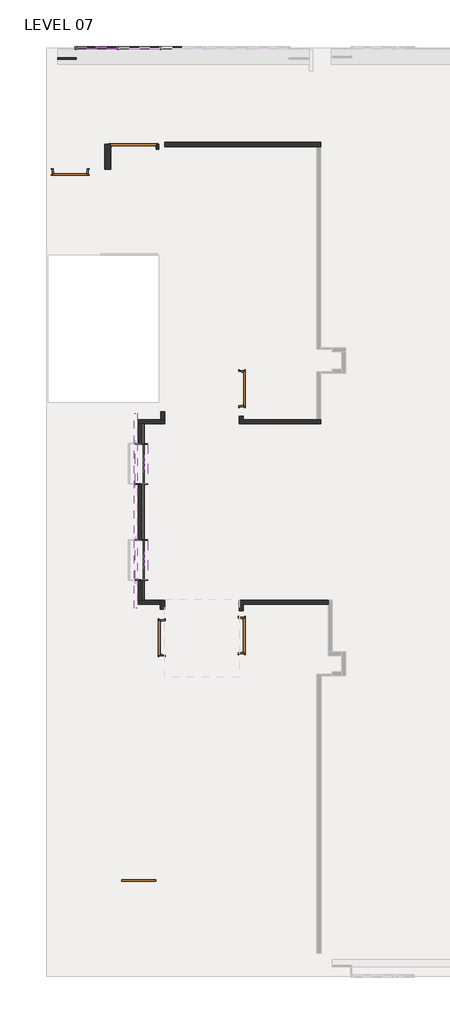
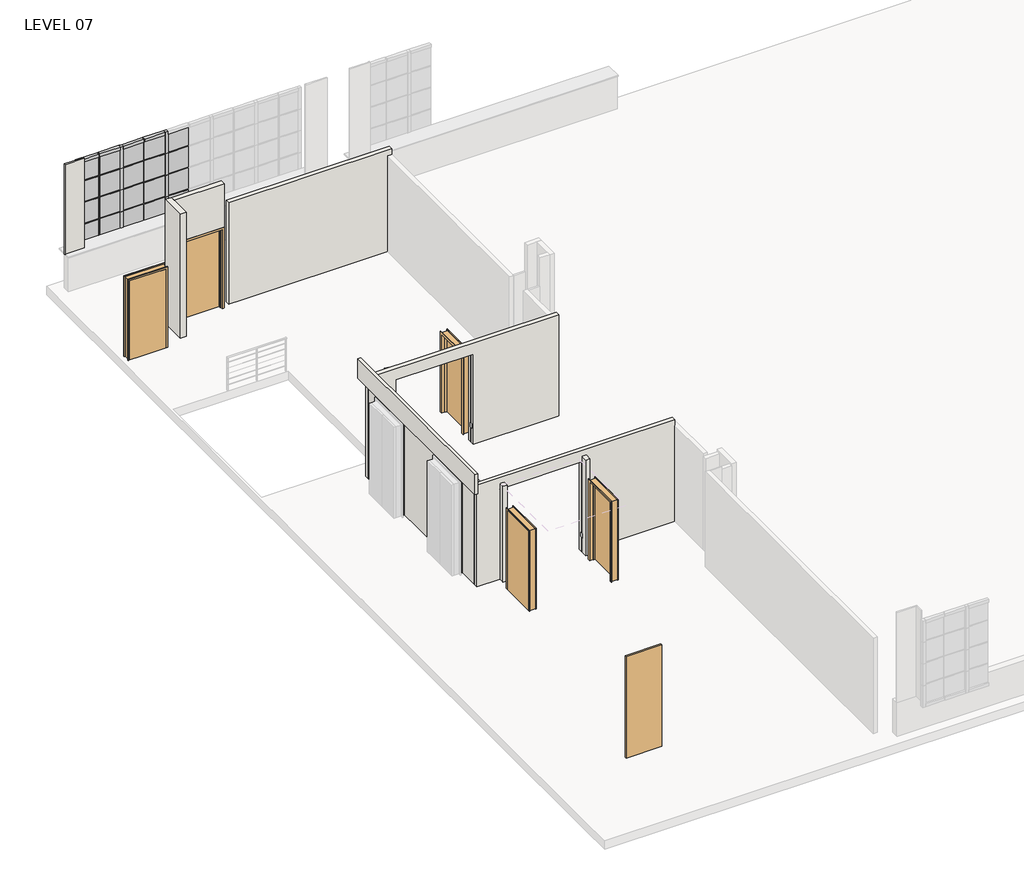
# One storey, part 1 of 15: 45 members, 28 plates, 18 walls, 6 doors.
"""IFC4 building model written with IfcOpenShell, lengths in millimetres."""

from ifc_helpers import new_model, si_unit, point, frame, frame_2d, origin, place, context, project, spatial, polyline, circle_curve, trimmed, segment, composite_curve, outline, extrude, faceted_brep, transform, mapped, element, save
from components import door_e2241045, door_949ad670, door_5714a8ac, door_f84329bb, member_d9fe2114, member_fd592df6, member_78bb2ef1, member_ba51e770, member_6e5aab5d, member_bacafba3, member_a6d649dc, rectangular_mullion_marble_portal_6730339e, rectangular_mullion_marble_portal_362a1233, rectangular_mullion_marble_portal_3496a1fa, empty_system_panel_empty_4b95af57, empty_system_panel_empty_d93e3753, empty_system_panel_empty_f93e9f1a, empty_system_panel_empty_1b0869d0, empty_system_panel_empty_50bca125, system_panel_glazed_84a10c8e, system_panel_glazed_44697018, system_panel_glazed_99b9b709, system_panel_glazed_bf1454fd, system_panel_velvet_panel_61d1aac4

model = new_model("IFC4")

# Units and contexts
model_context = context("Model", 3, world=origin())
ifc_project = project(units=[si_unit("LENGTHUNIT", "METRE", prefix="MILLI")], contexts=[model_context])

# Site, building, storey
site = spatial("IfcSite", under=ifc_project)
building = spatial("IfcBuilding", under=site)
storey = spatial("IfcBuildingStorey", under=building, Name="LEVEL 07", Elevation=20802.6)

# Doors
placement = place(None, origin())
door_shape = door_e2241045(model_context)
element("IfcDoor", 1, ObjectType="Door - Single Plain Panel - No Frame-U : 36\" Wide x 108\" Tall - A2", at=placement, inside=storey, context=model_context, shape_type="MappedRepresentation", body=[
    mapped(door_shape, transform((-34981.7623534, -22533.7417134, 20802.6), x_axis=(1.0, 0.0, 0.0), y_axis=(0.0, 1.0, 0.0), z_axis=(0.0, 0.0, 1.0))),
])
door_2_shape = door_949ad670(model_context)
element("IfcDoor", 2, ObjectType="Single - Plain Panel - Hollow Metal Frame : 3'-0\" x 7'-0\" - Exterior", at=placement, inside=storey, context=model_context, shape_type="MappedRepresentation", body=[
    mapped(door_2_shape, transform((-36807.3832298, -3705.225, 20802.6), x_axis=(1.0, 0.0, 0.0), y_axis=(0.0, 1.0, 0.0), z_axis=(0.0, 0.0, 1.0))),
])
door_3_shape = door_5714a8ac(model_context)
element("IfcDoor", 3, ObjectType="Single - Plain Panel - Hollow Metal Frame : 3'-0\" x 7'-0\" - Interior", at=placement, inside=storey, context=model_context, shape_type="MappedRepresentation", body=[
    mapped(door_3_shape, transform((-32238.5623534, -16056.7419725, 20802.6), x_axis=(0.0, -1.0, 0.0), y_axis=(1.0, 0.0, 0.0), z_axis=(0.0, 0.0, 1.0))),
])
element("IfcDoor", 4, ObjectType="Single - Plain Panel - Hollow Metal Frame : 3'-0\" x 7'-0\" - Interior", at=placement, inside=storey, context=model_context, shape_type="MappedRepresentation", body=[
    mapped(door_2_shape, transform((-32233.7972362, -9478.1422401, 20802.6), x_axis=(0.0, 1.0, 0.0), y_axis=(-1.0, 0.0, 0.0), z_axis=(0.0, 0.0, 1.0))),
])
element("IfcDoor", 5, ObjectType="Single - Plain Panel - Hollow Metal Frame : 3'-0\" x 7'-0\" - Interior", at=placement, inside=storey, context=model_context, shape_type="MappedRepresentation", body=[
    mapped(door_2_shape, transform((-34372.1623534, -16120.2419757, 20802.6), x_axis=(0.0, -1.0, 0.0), y_axis=(1.0, 0.0, 0.0), z_axis=(0.0, 0.0, 1.0))),
])
door_4_shape = door_f84329bb(model_context)
element("IfcDoor", 6, ObjectType="Single - Plain Panel - Hollow Metal Frame : 4'-0\" x 7'-0\" - Interior", at=placement, inside=storey, context=model_context, shape_type="MappedRepresentation", body=[
    mapped(door_4_shape, transform((-35121.4583373, -3030.5375, 20802.6), x_axis=(1.0, 0.0, 0.0), y_axis=(0.0, 1.0, 0.0), z_axis=(0.0, 0.0, 1.0))),
])

# Members
member_shape = member_d9fe2114(model_context)
element("IfcMember", 7, ObjectType="Rectangular Mullion : 1\" x 1\" - Butt Joint", at=placement, inside=storey, context=model_context, shape_type="MappedRepresentation", body=[
    mapped(member_shape, transform((-35576.1910374, -412.75, 23342.6), x_axis=(0.0, 0.0, 1.0), y_axis=(0.0, -1.0, 0.0), z_axis=(1.0, 0.0, 0.0))),
])
element("IfcMember", 8, ObjectType="Rectangular Mullion : 1\" x 1\" - Butt Joint", at=placement, inside=storey, context=model_context, shape_type="MappedRepresentation", body=[
    mapped(member_shape, transform((-34428.1110374, -412.75, 23342.6), x_axis=(0.0, 0.0, 1.0), y_axis=(0.0, -1.0, 0.0), z_axis=(1.0, 0.0, 0.0))),
])
element("IfcMember", 9, ObjectType="Rectangular Mullion : 1\" x 1\" - Butt Joint", at=placement, inside=storey, context=model_context, shape_type="MappedRepresentation", body=[
    mapped(member_shape, transform((-34976.7510374, -412.75, 23342.6), x_axis=(0.0, 0.0, 1.0), y_axis=(0.0, -1.0, 0.0), z_axis=(1.0, 0.0, 0.0))),
])
element("IfcMember", 10, ObjectType="Rectangular Mullion : 1\" x 1\" - Butt Joint", at=placement, inside=storey, context=model_context, shape_type="MappedRepresentation", body=[
    mapped(member_shape, transform((-35576.1910374, -412.75, 22758.4), x_axis=(0.0, 0.0, 1.0), y_axis=(0.0, -1.0, 0.0), z_axis=(1.0, 0.0, 0.0))),
])
element("IfcMember", 11, ObjectType="Rectangular Mullion : 1\" x 1\" - Butt Joint", at=placement, inside=storey, context=model_context, shape_type="MappedRepresentation", body=[
    mapped(member_shape, transform((-34428.1110374, -412.75, 22758.4), x_axis=(0.0, 0.0, 1.0), y_axis=(0.0, -1.0, 0.0), z_axis=(1.0, 0.0, 0.0))),
])
element("IfcMember", 12, ObjectType="Rectangular Mullion : 1\" x 1\" - Butt Joint", at=placement, inside=storey, context=model_context, shape_type="MappedRepresentation", body=[
    mapped(member_shape, transform((-34976.7510374, -412.75, 22758.4), x_axis=(0.0, 0.0, 1.0), y_axis=(0.0, -1.0, 0.0), z_axis=(1.0, 0.0, 0.0))),
])
element("IfcMember", 13, ObjectType="Rectangular Mullion : 1\" x 1\" - Butt Joint", at=placement, inside=storey, context=model_context, shape_type="MappedRepresentation", body=[
    mapped(member_shape, transform((-35576.1910374, -412.75, 22174.2), x_axis=(0.0, 0.0, 1.0), y_axis=(0.0, -1.0, 0.0), z_axis=(1.0, 0.0, 0.0))),
])
member_2_shape = member_fd592df6(model_context)
element("IfcMember", 14, ObjectType="Rectangular Mullion : 1\" x 1\" - Butt Joint", at=placement, inside=storey, context=model_context, shape_type="MappedRepresentation", body=[
    mapped(member_2_shape, transform((-36124.8310374, -412.75, 23342.6), x_axis=(0.0, 0.0, 1.0), y_axis=(0.0, -1.0, 0.0), z_axis=(1.0, 0.0, 0.0))),
])
element("IfcMember", 15, ObjectType="Rectangular Mullion : 1\" x 1\" - Butt Joint", at=placement, inside=storey, context=model_context, shape_type="MappedRepresentation", body=[
    mapped(member_2_shape, transform((-36124.8310374, -412.75, 22758.4), x_axis=(0.0, 0.0, 1.0), y_axis=(0.0, -1.0, 0.0), z_axis=(1.0, 0.0, 0.0))),
])
element("IfcMember", 16, ObjectType="Rectangular Mullion : 1\" x 1\" - Butt Joint", at=placement, inside=storey, context=model_context, shape_type="MappedRepresentation", body=[
    mapped(member_2_shape, transform((-36124.8310374, -412.75, 22174.2), x_axis=(0.0, 0.0, 1.0), y_axis=(0.0, -1.0, 0.0), z_axis=(1.0, 0.0, 0.0))),
])
member_3_shape = member_78bb2ef1(model_context)
element("IfcMember", 17, ObjectType="Rectangular Mullion : 1\" x 1\" - Butt Joint", at=placement, inside=storey, context=model_context, shape_type="MappedRepresentation", body=[
    mapped(member_3_shape, transform((-36112.1310374, -412.75, 23342.6), x_axis=(1.0, 0.0, 0.0), y_axis=(0.0, -1.0, 0.0), z_axis=(0.0, 0.0, -1.0))),
])
element("IfcMember", 18, ObjectType="Rectangular Mullion : 1\" x 1\" - Butt Joint", at=placement, inside=storey, context=model_context, shape_type="MappedRepresentation", body=[
    mapped(member_3_shape, transform((-36112.1310374, -412.75, 22174.2), x_axis=(1.0, 0.0, 0.0), y_axis=(0.0, -1.0, 0.0), z_axis=(0.0, 0.0, -1.0))),
])
element("IfcMember", 19, ObjectType="Rectangular Mullion : 1\" x 1\" - Butt Joint", at=placement, inside=storey, context=model_context, shape_type="MappedRepresentation", body=[
    mapped(member_3_shape, transform((-36112.1310374, -412.75, 22758.4), x_axis=(1.0, 0.0, 0.0), y_axis=(0.0, -1.0, 0.0), z_axis=(0.0, 0.0, -1.0))),
])
element("IfcMember", 20, ObjectType="Rectangular Mullion : 1\" x 1\" - Butt Joint", at=placement, inside=storey, context=model_context, shape_type="MappedRepresentation", body=[
    mapped(member_3_shape, transform((-36112.1310374, -412.75, 21590.0), x_axis=(1.0, 0.0, 0.0), y_axis=(0.0, -1.0, 0.0), z_axis=(0.0, 0.0, -1.0))),
])
member_4_shape = member_ba51e770(model_context)
element("IfcMember", 21, ObjectType="Rectangular Mullion : 3\" x 3\" Window Jamb", at=placement, inside=storey, context=model_context, shape_type="MappedRepresentation", body=[
    mapped(member_4_shape, transform((-36124.8310374, -412.75, 23926.8), x_axis=(0.0, 0.0, 1.0), y_axis=(0.0, -1.0, 0.0), z_axis=(1.0, 0.0, 0.0))),
])
member_5_shape = member_6e5aab5d(model_context)
element("IfcMember", 22, ObjectType="Rectangular Mullion : 3\" x 3\" Window Jamb", at=placement, inside=storey, context=model_context, shape_type="MappedRepresentation", body=[
    mapped(member_5_shape, transform((-34976.7510374, -412.75, 23926.8), x_axis=(0.0, 0.0, 1.0), y_axis=(0.0, -1.0, 0.0), z_axis=(1.0, 0.0, 0.0))),
])
element("IfcMember", 23, ObjectType="Rectangular Mullion : 3\" x 3\" Window Jamb", at=placement, inside=storey, context=model_context, shape_type="MappedRepresentation", body=[
    mapped(member_5_shape, transform((-35576.1910374, -412.75, 23926.8), x_axis=(0.0, 0.0, 1.0), y_axis=(0.0, -1.0, 0.0), z_axis=(1.0, 0.0, 0.0))),
])
element("IfcMember", 24, ObjectType="Rectangular Mullion : 3\" x 3\" Window Jamb", at=placement, inside=storey, context=model_context, shape_type="MappedRepresentation", body=[
    mapped(member_5_shape, transform((-34428.1110374, -412.75, 23926.8), x_axis=(0.0, 0.0, 1.0), y_axis=(0.0, -1.0, 0.0), z_axis=(1.0, 0.0, 0.0))),
])
element("IfcMember", 25, ObjectType="Rectangular Mullion : 3\" x 3\" Window Jamb", at=placement, inside=storey, context=model_context, shape_type="MappedRepresentation", body=[
    mapped(member_5_shape, transform((-36099.4310374, -412.75, 21590.0), x_axis=(0.0, 0.0, -1.0), y_axis=(0.0, -1.0, 0.0), z_axis=(-1.0, 0.0, 0.0))),
])
element("IfcMember", 26, ObjectType="Rectangular Mullion : 3\" x 3\" Window Jamb", at=placement, inside=storey, context=model_context, shape_type="MappedRepresentation", body=[
    mapped(member_5_shape, transform((-34951.3510374, -412.75, 21590.0), x_axis=(0.0, 0.0, -1.0), y_axis=(0.0, -1.0, 0.0), z_axis=(-1.0, 0.0, 0.0))),
])
element("IfcMember", 27, ObjectType="Rectangular Mullion : 3\" x 3\" Window Jamb", at=placement, inside=storey, context=model_context, shape_type="MappedRepresentation", body=[
    mapped(member_5_shape, transform((-35499.9910374, -412.75, 21590.0), x_axis=(0.0, 0.0, -1.0), y_axis=(0.0, -1.0, 0.0), z_axis=(-1.0, 0.0, 0.0))),
])
element("IfcMember", 28, ObjectType="Rectangular Mullion : 3\" x 3\" Window Jamb", at=placement, inside=storey, context=model_context, shape_type="MappedRepresentation", body=[
    mapped(member_5_shape, transform((-34351.9110374, -412.75, 21590.0), x_axis=(0.0, 0.0, -1.0), y_axis=(0.0, -1.0, 0.0), z_axis=(-1.0, 0.0, 0.0))),
])
element("IfcMember", 29, ObjectType="Rectangular Mullion : 3\" x 3\" Window Jamb", at=placement, inside=storey, context=model_context, shape_type="MappedRepresentation", body=[
    mapped(member_4_shape, transform((-36609.9710374, -412.75, 21590.0), x_axis=(0.0, 0.0, -1.0), y_axis=(0.0, -1.0, 0.0), z_axis=(-1.0, 0.0, 0.0))),
])
member_6_shape = member_bacafba3(model_context)
element("IfcMember", 30, ObjectType="Rectangular Mullion : 3\" x 3\" Window Jamb", at=placement, inside=storey, context=model_context, shape_type="MappedRepresentation", body=[
    mapped(member_6_shape, transform((-34390.0110374, -412.75, 23342.6), x_axis=(1.0, 0.0, 0.0), y_axis=(0.0, -1.0, 0.0), z_axis=(0.0, 0.0, -1.0))),
])
element("IfcMember", 31, ObjectType="Rectangular Mullion : 3\" x 3\" Window Jamb", at=placement, inside=storey, context=model_context, shape_type="MappedRepresentation", body=[
    mapped(member_6_shape, transform((-35538.0910374, -412.75, 23342.6), x_axis=(1.0, 0.0, 0.0), y_axis=(0.0, -1.0, 0.0), z_axis=(0.0, 0.0, -1.0))),
])
element("IfcMember", 32, ObjectType="Rectangular Mullion : 3\" x 3\" Window Jamb", at=placement, inside=storey, context=model_context, shape_type="MappedRepresentation", body=[
    mapped(member_6_shape, transform((-34390.0110374, -412.75, 22174.2), x_axis=(1.0, 0.0, 0.0), y_axis=(0.0, -1.0, 0.0), z_axis=(0.0, 0.0, -1.0))),
])
element("IfcMember", 33, ObjectType="Rectangular Mullion : 3\" x 3\" Window Jamb", at=placement, inside=storey, context=model_context, shape_type="MappedRepresentation", body=[
    mapped(member_6_shape, transform((-34390.0110374, -412.75, 22758.4), x_axis=(1.0, 0.0, 0.0), y_axis=(0.0, -1.0, 0.0), z_axis=(0.0, 0.0, -1.0))),
])
element("IfcMember", 34, ObjectType="Rectangular Mullion : 3\" x 3\" Window Jamb", at=placement, inside=storey, context=model_context, shape_type="MappedRepresentation", body=[
    mapped(member_6_shape, transform((-35538.0910374, -412.75, 22174.2), x_axis=(1.0, 0.0, 0.0), y_axis=(0.0, -1.0, 0.0), z_axis=(0.0, 0.0, -1.0))),
])
element("IfcMember", 35, ObjectType="Rectangular Mullion : 3\" x 3\" Window Jamb", at=placement, inside=storey, context=model_context, shape_type="MappedRepresentation", body=[
    mapped(member_6_shape, transform((-35538.0910374, -412.75, 22758.4), x_axis=(1.0, 0.0, 0.0), y_axis=(0.0, -1.0, 0.0), z_axis=(0.0, 0.0, -1.0))),
])
element("IfcMember", 36, ObjectType="Rectangular Mullion : 3\" x 3\" Window Jamb", at=placement, inside=storey, context=model_context, shape_type="MappedRepresentation", body=[
    mapped(member_6_shape, transform((-34390.0110374, -412.75, 21590.0), x_axis=(1.0, 0.0, 0.0), y_axis=(0.0, -1.0, 0.0), z_axis=(0.0, 0.0, -1.0))),
])
element("IfcMember", 37, ObjectType="Rectangular Mullion : 3\" x 3\" Window Jamb", at=placement, inside=storey, context=model_context, shape_type="MappedRepresentation", body=[
    mapped(member_6_shape, transform((-35538.0910374, -412.75, 21590.0), x_axis=(1.0, 0.0, 0.0), y_axis=(0.0, -1.0, 0.0), z_axis=(0.0, 0.0, -1.0))),
])
member_7_shape = member_a6d649dc(model_context)
element("IfcMember", 38, ObjectType="Rectangular Mullion : 3\" x 3\" Window Jamb", at=placement, inside=storey, context=model_context, shape_type="MappedRepresentation", body=[
    mapped(member_7_shape, transform((-36686.1710374, -412.75, 23342.6), x_axis=(-1.0, 0.0, 0.0), y_axis=(0.0, -1.0, 0.0), z_axis=(0.0, 0.0, 1.0))),
])
element("IfcMember", 39, ObjectType="Rectangular Mullion : 3\" x 3\" Window Jamb", at=placement, inside=storey, context=model_context, shape_type="MappedRepresentation", body=[
    mapped(member_7_shape, transform((-36686.1710374, -412.75, 22758.4), x_axis=(-1.0, 0.0, 0.0), y_axis=(0.0, -1.0, 0.0), z_axis=(0.0, 0.0, 1.0))),
])
element("IfcMember", 40, ObjectType="Rectangular Mullion : 3\" x 3\" Window Jamb", at=placement, inside=storey, context=model_context, shape_type="MappedRepresentation", body=[
    mapped(member_7_shape, transform((-36686.1710374, -412.75, 22174.2), x_axis=(-1.0, 0.0, 0.0), y_axis=(0.0, -1.0, 0.0), z_axis=(0.0, 0.0, 1.0))),
])
element("IfcMember", 41, ObjectType="Rectangular Mullion : 3\" x 3\" Window Jamb", at=placement, inside=storey, context=model_context, shape_type="MappedRepresentation", body=[
    mapped(member_7_shape, transform((-36686.1710374, -412.75, 23926.8), x_axis=(-1.0, 0.0, 0.0), y_axis=(0.0, -1.0, 0.0), z_axis=(0.0, 0.0, 1.0))),
])
rectangular_mullion_marble_portal_shape = rectangular_mullion_marble_portal_6730339e(model_context)
element("IfcMember", 42, ObjectType="Rectangular Mullion : MARBLE PORTAL", at=placement, inside=storey, context=model_context, shape_type="MappedRepresentation", body=[
    mapped(rectangular_mullion_marble_portal_shape, transform((-34886.5082298, -14584.5132439, 20802.6), x_axis=(0.0, -1.0, 0.0), y_axis=(-1.0, 0.0, 0.0), z_axis=(0.0, 0.0, -1.0))),
])
element("IfcMember", 43, ObjectType="Rectangular Mullion : MARBLE PORTAL", at=placement, inside=storey, context=model_context, shape_type="MappedRepresentation", body=[
    mapped(rectangular_mullion_marble_portal_shape, transform((-34886.5082298, -13517.7132439, 20802.6), x_axis=(0.0, -1.0, 0.0), y_axis=(-1.0, 0.0, 0.0), z_axis=(0.0, 0.0, -1.0))),
])
element("IfcMember", 44, ObjectType="Rectangular Mullion : MARBLE PORTAL", at=placement, inside=storey, context=model_context, shape_type="MappedRepresentation", body=[
    mapped(rectangular_mullion_marble_portal_shape, transform((-34886.5082298, -12014.5070251, 20802.6), x_axis=(0.0, -1.0, 0.0), y_axis=(-1.0, 0.0, 0.0), z_axis=(0.0, 0.0, -1.0))),
])
element("IfcMember", 45, ObjectType="Rectangular Mullion : MARBLE PORTAL", at=placement, inside=storey, context=model_context, shape_type="MappedRepresentation", body=[
    mapped(rectangular_mullion_marble_portal_shape, transform((-34886.5082298, -10947.7070251, 20802.6), x_axis=(0.0, -1.0, 0.0), y_axis=(-1.0, 0.0, 0.0), z_axis=(0.0, 0.0, -1.0))),
])
rectangular_mullion_marble_portal_2_shape = rectangular_mullion_marble_portal_362a1233(model_context)
element("IfcMember", 46, ObjectType="Rectangular Mullion : MARBLE PORTAL", at=placement, inside=storey, context=model_context, shape_type="MappedRepresentation", body=[
    mapped(rectangular_mullion_marble_portal_2_shape, transform((-34886.5082298, -14578.1632439, 23241.0), x_axis=(0.0, 0.0, 1.0), y_axis=(-1.0, 0.0, 0.0), z_axis=(0.0, -1.0, 0.0))),
])
element("IfcMember", 47, ObjectType="Rectangular Mullion : MARBLE PORTAL", at=placement, inside=storey, context=model_context, shape_type="MappedRepresentation", body=[
    mapped(rectangular_mullion_marble_portal_2_shape, transform((-34886.5082298, -12008.1570251, 23241.0), x_axis=(0.0, 0.0, 1.0), y_axis=(-1.0, 0.0, 0.0), z_axis=(0.0, -1.0, 0.0))),
])
rectangular_mullion_marble_portal_3_shape = rectangular_mullion_marble_portal_3496a1fa(model_context)
element("IfcMember", 48, ObjectType="Rectangular Mullion : MARBLE PORTAL", at=placement, inside=storey, context=model_context, shape_type="MappedRepresentation", body=[
    mapped(rectangular_mullion_marble_portal_3_shape, transform((-34886.5082298, -14584.5132439, 20878.8), x_axis=(0.0, -1.0, 0.0), y_axis=(-1.0, 0.0, 0.0), z_axis=(0.0, 0.0, -1.0))),
])
element("IfcMember", 49, ObjectType="Rectangular Mullion : MARBLE PORTAL", at=placement, inside=storey, context=model_context, shape_type="MappedRepresentation", body=[
    mapped(rectangular_mullion_marble_portal_3_shape, transform((-34886.5082298, -13517.7132439, 20878.8), x_axis=(0.0, -1.0, 0.0), y_axis=(-1.0, 0.0, 0.0), z_axis=(0.0, 0.0, -1.0))),
])
element("IfcMember", 50, ObjectType="Rectangular Mullion : MARBLE PORTAL", at=placement, inside=storey, context=model_context, shape_type="MappedRepresentation", body=[
    mapped(rectangular_mullion_marble_portal_3_shape, transform((-34886.5082298, -12014.5070251, 20878.8), x_axis=(0.0, -1.0, 0.0), y_axis=(-1.0, 0.0, 0.0), z_axis=(0.0, 0.0, -1.0))),
])
element("IfcMember", 51, ObjectType="Rectangular Mullion : MARBLE PORTAL", at=placement, inside=storey, context=model_context, shape_type="MappedRepresentation", body=[
    mapped(rectangular_mullion_marble_portal_3_shape, transform((-34886.5082298, -10947.7070251, 20878.8), x_axis=(0.0, -1.0, 0.0), y_axis=(-1.0, 0.0, 0.0), z_axis=(0.0, 0.0, -1.0))),
])

# Plates
empty_system_panel_empty_shape = empty_system_panel_empty_4b95af57(model_context)
element("IfcPlate", 52, ObjectType="Empty System Panel : Empty", at=placement, inside=storey, context=model_context, shape_type="MappedRepresentation", body=[
    mapped(empty_system_panel_empty_shape, transform((-34886.5082298, -10679.6496326, 20802.6), x_axis=(0.0, -1.0, 0.0), y_axis=(1.0, 0.0, 0.0), z_axis=(0.0, 0.0, 1.0))),
])
empty_system_panel_empty_2_shape = empty_system_panel_empty_d93e3753(model_context)
element("IfcPlate", 53, ObjectType="Empty System Panel : Empty", at=placement, inside=storey, context=model_context, shape_type="MappedRepresentation", body=[
    mapped(empty_system_panel_empty_2_shape, transform((-34886.5082298, -11481.1070251, 20802.6), x_axis=(0.0, -1.0, 0.0), y_axis=(1.0, 0.0, 0.0), z_axis=(0.0, 0.0, 1.0))),
])
element("IfcPlate", 54, ObjectType="Empty System Panel : Empty", at=placement, inside=storey, context=model_context, shape_type="MappedRepresentation", body=[
    mapped(empty_system_panel_empty_2_shape, transform((-34886.5082298, -14051.1132439, 20802.6), x_axis=(0.0, -1.0, 0.0), y_axis=(1.0, 0.0, 0.0), z_axis=(0.0, 0.0, 1.0))),
])
empty_system_panel_empty_3_shape = empty_system_panel_empty_f93e9f1a(model_context)
element("IfcPlate", 55, ObjectType="Empty System Panel : Empty", at=placement, inside=storey, context=model_context, shape_type="MappedRepresentation", body=[
    mapped(empty_system_panel_empty_3_shape, transform((-34886.5082298, -14853.9026082, 20802.6), x_axis=(0.0, -1.0, 0.0), y_axis=(1.0, 0.0, 0.0), z_axis=(0.0, 0.0, 1.0))),
])
empty_system_panel_empty_4_shape = empty_system_panel_empty_1b0869d0(model_context)
element("IfcPlate", 56, ObjectType="Empty System Panel : Empty", at=placement, inside=storey, context=model_context, shape_type="MappedRepresentation", body=[
    mapped(empty_system_panel_empty_4_shape, transform((-34886.5082298, -12766.1101345, 20802.6), x_axis=(0.0, -1.0, 0.0), y_axis=(1.0, 0.0, 0.0), z_axis=(0.0, 0.0, 1.0))),
])
empty_system_panel_empty_5_shape = empty_system_panel_empty_50bca125(model_context)
element("IfcPlate", 57, ObjectType="Empty System Panel : Empty", at=placement, inside=storey, context=model_context, shape_type="MappedRepresentation", body=[
    mapped(empty_system_panel_empty_5_shape, transform((-34886.5082298, -11481.1070251, 20878.8), x_axis=(0.0, -1.0, 0.0), y_axis=(1.0, 0.0, 0.0), z_axis=(0.0, 0.0, 1.0))),
])
element("IfcPlate", 58, ObjectType="Empty System Panel : Empty", at=placement, inside=storey, context=model_context, shape_type="MappedRepresentation", body=[
    mapped(empty_system_panel_empty_5_shape, transform((-34886.5082298, -14051.1132439, 20878.8), x_axis=(0.0, -1.0, 0.0), y_axis=(1.0, 0.0, 0.0), z_axis=(0.0, 0.0, 1.0))),
])
system_panel_glazed_shape = system_panel_glazed_84a10c8e(model_context)
element("IfcPlate", 59, ObjectType="System Panel : Glazed", at=placement, inside=storey, context=model_context, shape_type="MappedRepresentation", body=[
    mapped(system_panel_glazed_shape, transform((-36367.4010374, -412.75, 21666.2), x_axis=(1.0, 0.0, 0.0), y_axis=(0.0, 1.0, 0.0), z_axis=(0.0, 0.0, 1.0))),
])
element("IfcPlate", 60, ObjectType="System Panel : Glazed", at=placement, inside=storey, context=model_context, shape_type="MappedRepresentation", body=[
    mapped(system_panel_glazed_shape, transform((-36367.4010374, -412.75, 23355.3), x_axis=(1.0, 0.0, 0.0), y_axis=(0.0, 1.0, 0.0), z_axis=(0.0, 0.0, 1.0))),
])
system_panel_glazed_2_shape = system_panel_glazed_44697018(model_context)
element("IfcPlate", 61, ObjectType="System Panel : Glazed", at=placement, inside=storey, context=model_context, shape_type="MappedRepresentation", body=[
    mapped(system_panel_glazed_2_shape, transform((-34090.2910374, -412.75, 21666.2), x_axis=(1.0, 0.0, 0.0), y_axis=(0.0, 1.0, 0.0), z_axis=(0.0, 0.0, 1.0))),
])
element("IfcPlate", 62, ObjectType="System Panel : Glazed", at=placement, inside=storey, context=model_context, shape_type="MappedRepresentation", body=[
    mapped(system_panel_glazed_2_shape, transform((-35238.3710374, -412.75, 21666.2), x_axis=(1.0, 0.0, 0.0), y_axis=(0.0, 1.0, 0.0), z_axis=(0.0, 0.0, 1.0))),
])
element("IfcPlate", 63, ObjectType="System Panel : Glazed", at=placement, inside=storey, context=model_context, shape_type="MappedRepresentation", body=[
    mapped(system_panel_glazed_2_shape, transform((-35238.3710374, -412.75, 23355.3), x_axis=(1.0, 0.0, 0.0), y_axis=(0.0, 1.0, 0.0), z_axis=(0.0, 0.0, 1.0))),
])
element("IfcPlate", 64, ObjectType="System Panel : Glazed", at=placement, inside=storey, context=model_context, shape_type="MappedRepresentation", body=[
    mapped(system_panel_glazed_2_shape, transform((-34090.2910374, -412.75, 23355.3), x_axis=(1.0, 0.0, 0.0), y_axis=(0.0, 1.0, 0.0), z_axis=(0.0, 0.0, 1.0))),
])
element("IfcPlate", 65, ObjectType="System Panel : Glazed", at=placement, inside=storey, context=model_context, shape_type="MappedRepresentation", body=[
    mapped(system_panel_glazed_2_shape, transform((-34689.7310374, -412.75, 21666.2), x_axis=(1.0, 0.0, 0.0), y_axis=(0.0, 1.0, 0.0), z_axis=(0.0, 0.0, 1.0))),
])
element("IfcPlate", 66, ObjectType="System Panel : Glazed", at=placement, inside=storey, context=model_context, shape_type="MappedRepresentation", body=[
    mapped(system_panel_glazed_2_shape, transform((-34689.7310374, -412.75, 23355.3), x_axis=(1.0, 0.0, 0.0), y_axis=(0.0, 1.0, 0.0), z_axis=(0.0, 0.0, 1.0))),
])
element("IfcPlate", 67, ObjectType="System Panel : Glazed", at=placement, inside=storey, context=model_context, shape_type="MappedRepresentation", body=[
    mapped(system_panel_glazed_2_shape, transform((-35837.8110374, -412.75, 21666.2), x_axis=(1.0, 0.0, 0.0), y_axis=(0.0, 1.0, 0.0), z_axis=(0.0, 0.0, 1.0))),
])
element("IfcPlate", 68, ObjectType="System Panel : Glazed", at=placement, inside=storey, context=model_context, shape_type="MappedRepresentation", body=[
    mapped(system_panel_glazed_2_shape, transform((-35837.8110374, -412.75, 23355.3), x_axis=(1.0, 0.0, 0.0), y_axis=(0.0, 1.0, 0.0), z_axis=(0.0, 0.0, 1.0))),
])
system_panel_glazed_3_shape = system_panel_glazed_99b9b709(model_context)
element("IfcPlate", 69, ObjectType="System Panel : Glazed", at=placement, inside=storey, context=model_context, shape_type="MappedRepresentation", body=[
    mapped(system_panel_glazed_3_shape, transform((-36367.4010374, -412.75, 22771.1), x_axis=(1.0, 0.0, 0.0), y_axis=(0.0, 1.0, 0.0), z_axis=(0.0, 0.0, 1.0))),
])
element("IfcPlate", 70, ObjectType="System Panel : Glazed", at=placement, inside=storey, context=model_context, shape_type="MappedRepresentation", body=[
    mapped(system_panel_glazed_3_shape, transform((-36367.4010374, -412.75, 22186.9), x_axis=(1.0, 0.0, 0.0), y_axis=(0.0, 1.0, 0.0), z_axis=(0.0, 0.0, 1.0))),
])
system_panel_glazed_4_shape = system_panel_glazed_bf1454fd(model_context)
element("IfcPlate", 71, ObjectType="System Panel : Glazed", at=placement, inside=storey, context=model_context, shape_type="MappedRepresentation", body=[
    mapped(system_panel_glazed_4_shape, transform((-35238.3710374, -412.75, 22771.1), x_axis=(1.0, 0.0, 0.0), y_axis=(0.0, 1.0, 0.0), z_axis=(0.0, 0.0, 1.0))),
])
element("IfcPlate", 72, ObjectType="System Panel : Glazed", at=placement, inside=storey, context=model_context, shape_type="MappedRepresentation", body=[
    mapped(system_panel_glazed_4_shape, transform((-34090.2910374, -412.75, 22771.1), x_axis=(1.0, 0.0, 0.0), y_axis=(0.0, 1.0, 0.0), z_axis=(0.0, 0.0, 1.0))),
])
element("IfcPlate", 73, ObjectType="System Panel : Glazed", at=placement, inside=storey, context=model_context, shape_type="MappedRepresentation", body=[
    mapped(system_panel_glazed_4_shape, transform((-35238.3710374, -412.75, 22186.9), x_axis=(1.0, 0.0, 0.0), y_axis=(0.0, 1.0, 0.0), z_axis=(0.0, 0.0, 1.0))),
])
element("IfcPlate", 74, ObjectType="System Panel : Glazed", at=placement, inside=storey, context=model_context, shape_type="MappedRepresentation", body=[
    mapped(system_panel_glazed_4_shape, transform((-34090.2910374, -412.75, 22186.9), x_axis=(1.0, 0.0, 0.0), y_axis=(0.0, 1.0, 0.0), z_axis=(0.0, 0.0, 1.0))),
])
element("IfcPlate", 75, ObjectType="System Panel : Glazed", at=placement, inside=storey, context=model_context, shape_type="MappedRepresentation", body=[
    mapped(system_panel_glazed_4_shape, transform((-34689.7310374, -412.75, 22186.9), x_axis=(1.0, 0.0, 0.0), y_axis=(0.0, 1.0, 0.0), z_axis=(0.0, 0.0, 1.0))),
])
element("IfcPlate", 76, ObjectType="System Panel : Glazed", at=placement, inside=storey, context=model_context, shape_type="MappedRepresentation", body=[
    mapped(system_panel_glazed_4_shape, transform((-34689.7310374, -412.75, 22771.1), x_axis=(1.0, 0.0, 0.0), y_axis=(0.0, 1.0, 0.0), z_axis=(0.0, 0.0, 1.0))),
])
element("IfcPlate", 77, ObjectType="System Panel : Glazed", at=placement, inside=storey, context=model_context, shape_type="MappedRepresentation", body=[
    mapped(system_panel_glazed_4_shape, transform((-35837.8110374, -412.75, 22186.9), x_axis=(1.0, 0.0, 0.0), y_axis=(0.0, 1.0, 0.0), z_axis=(0.0, 0.0, 1.0))),
])
element("IfcPlate", 78, ObjectType="System Panel : Glazed", at=placement, inside=storey, context=model_context, shape_type="MappedRepresentation", body=[
    mapped(system_panel_glazed_4_shape, transform((-35837.8110374, -412.75, 22771.1), x_axis=(1.0, 0.0, 0.0), y_axis=(0.0, 1.0, 0.0), z_axis=(0.0, 0.0, 1.0))),
])
system_panel_velvet_panel_shape = system_panel_velvet_panel_61d1aac4(model_context)
element("IfcPlate", 79, ObjectType="System Panel : Velvet Panel", at=placement, inside=storey, context=model_context, shape_type="MappedRepresentation", body=[
    mapped(system_panel_velvet_panel_shape, transform((-34886.5082298, -12767.4421063, 20878.8), x_axis=(0.0, -1.0, 0.0), y_axis=(1.0, 0.0, 0.0), z_axis=(0.0, 0.0, 1.0))),
])

# Walls
element("IfcWall", 80, ObjectType="Partition A3A - Full Height w/ Insulation", at=placement, inside=storey, context=model_context, shape_type="Brep", body=[
    faceted_brep([(-34448.3582282, -3092.45, 24155.4), (-35731.0583373, -3092.45, 24155.4), (-35731.0583373, -3092.45, 22961.6), (-34486.4583373, -3092.45, 22961.6), (-34486.4583373, -3092.45, 20802.6), (-34448.3582282, -3092.45, 20802.6), (-35731.0583373, -2968.625, 24155.4), (-34448.3582282, -2968.625, 24155.4), (-34448.3582282, -2968.625, 23545.8), (-34448.3582282, -2968.625, 20802.6), (-34486.4583373, -2968.625, 20802.6), (-34486.4583373, -2968.625, 22961.6), (-35731.0583373, -2968.625, 22961.6), (-34448.3582282, -2971.8, 20802.6)], [[[0, 1, 2, 3, 4, 5]], [[6, 7, 8, 9, 10, 11, 12]], [[9, 13, 5, 4, 10]], [[1, 0, 7, 6]], [[3, 11, 10, 4]], [[11, 3, 2, 12]], [[0, 5, 13, 9, 8, 7]], [[1, 6, 12, 2]]]),
])
element("IfcWall", 81, ObjectType="ELEVATOR LOBBY CALL BUTTON PLATE", at=placement, inside=storey, context=model_context, shape_type="SweptSolid", body=[
    extrude(outline(polyline([(-13822.5132439, 23266.4), (-14279.7132439, 23266.4), (-14279.7132439, 23393.4), (-13822.5132439, 23393.4), (-13822.5132439, 23266.4)]), holes=[polyline([(-13987.6132439, 23368.0), (-14114.6132439, 23368.0), (-14114.6132439, 23291.8), (-13987.6132439, 23291.8), (-13987.6132439, 23368.0)])]), frame((-34848.4082298, 0.0, 0.0), z_axis=(1.0, 0.0, 0.0), x_axis=(0.0, 1.0, 0.0)), (0.0, 0.0, 1.0), 12.7),
])
element("IfcWall", 82, ObjectType="ELEVATOR LOBBY CALL BUTTON PLATE", at=placement, inside=storey, context=model_context, shape_type="SweptSolid", body=[
    extrude(outline(polyline([(-11252.5070251, 23266.4), (-11709.7070251, 23266.4), (-11709.7070251, 23393.4), (-11252.5070251, 23393.4), (-11252.5070251, 23266.4)]), holes=[polyline([(-11417.6070251, 23368.0), (-11544.6070251, 23368.0), (-11544.6070251, 23291.8), (-11417.6070251, 23291.8), (-11417.6070251, 23368.0)])]), frame((-34848.4082298, 0.0, 0.0), z_axis=(1.0, 0.0, 0.0), x_axis=(0.0, 1.0, 0.0)), (0.0, 0.0, 1.0), 12.7),
])
element("IfcWall", 83, ObjectType="ELEVATOR LOBBY CALL BUTTON PLATE", at=placement, inside=storey, context=model_context, shape_type="SweptSolid", body=[
    extrude(outline(polyline([(-12689.9101345, 21742.4), (-12842.3101345, 21742.4), (-12842.3101345, 22364.7), (-12689.9101345, 22364.7), (-12689.9101345, 21742.4)]), holes=[composite_curve([segment(trimmed(circle_curve(frame_2d((-12766.1101345, 21894.8)), 15.875), [point((-12781.9851345, 21894.8))], [point((-12750.2351345, 21894.8))], True, "CARTESIAN"), True, "CONTINUOUS"), segment(trimmed(circle_curve(frame_2d((-12766.1101345, 21894.8)), 15.875), [point((-12750.2351345, 21894.8))], [point((-12781.9851345, 21894.8))], True, "CARTESIAN"), True, "CONTINUOUS")], self_intersect=False), composite_curve([segment(trimmed(circle_curve(frame_2d((-12766.1101345, 21831.3)), 15.875), [point((-12781.9851345, 21831.3))], [point((-12750.2351345, 21831.3))], True, "CARTESIAN"), True, "CONTINUOUS"), segment(trimmed(circle_curve(frame_2d((-12766.1101345, 21831.3)), 15.875), [point((-12750.2351345, 21831.3))], [point((-12781.9851345, 21831.3))], True, "CARTESIAN"), True, "CONTINUOUS")], self_intersect=False)]), frame((-34848.4082298, 0.0, 0.0), z_axis=(1.0, 0.0, 0.0), x_axis=(0.0, 1.0, 0.0)), (0.0, 0.0, 1.0), 12.7),
])
element("IfcWall", 84, ObjectType="Generic Existing Interior Partition - 6\"", at=placement, inside=storey, context=model_context, shape_type="Brep", body=[
    faceted_brep([(-35731.0583373, -2968.625, 24155.4), (-35731.0583373, -3092.45, 24155.4), (-35731.0583373, -3629.025, 24155.4), (-35731.0583373, -3629.025, 20802.6), (-35731.0583373, -3092.45, 20802.6), (-35731.0583373, -3092.45, 22961.6), (-35731.0583373, -2968.625, 22961.6), (-35883.4583373, -2968.625, 20802.6), (-35883.4583373, -3629.025, 20802.6), (-35883.4583373, -3629.025, 24155.4), (-35883.4583373, -2968.625, 24155.4), (-35756.4583373, -2968.625, 20802.6), (-35756.4583373, -3092.45, 20802.6), (-35756.4583373, -3092.45, 22961.6), (-35756.4583373, -2968.625, 22961.6)], [[[0, 1, 2, 3, 4, 5, 6]], [[7, 8, 9, 10]], [[8, 7, 11, 12, 4, 3]], [[2, 1, 0, 10, 9]], [[3, 2, 9, 8]], [[12, 13, 5, 4]], [[13, 14, 6, 5]], [[13, 12, 11, 14]], [[7, 10, 0, 6, 14, 11]]]),
])
element("IfcWall", 85, ObjectType="Partition D2_", at=placement, inside=storey, context=model_context, shape_type="SweptSolid", body=[
    extrude(outline(polyline([(-35103.9972362, -15324.9046996), (-35103.9972362, -10140.1294757), (-35024.6222362, -10140.1294757), (-35024.6222362, -15324.9046996), (-35103.9972362, -15324.9046996)])), frame((0.0, 0.0, 23393.4), z_axis=(0.0, 0.0, 1.0), x_axis=(1.0, 0.0, 0.0)), (0.0, 0.0, 1.0), 533.4),
])
element("IfcWall", 86, ObjectType="Partition D3A", at=placement, inside=storey, context=model_context, shape_type="Brep", body=[
    faceted_brep([(-34994.4582298, -10417.9422401, 20802.6), (-34886.5082298, -10417.9422401, 20802.6), (-34292.7832282, -10417.9422401, 20802.6), (-34292.7832282, -10417.9422401, 23241.0), (-32309.9972362, -10417.9422401, 23241.0), (-32309.9972362, -10417.9422401, 20802.6), (-30130.3582282, -10417.9422401, 20802.6), (-30130.3582282, -10417.9422401, 23545.8), (-34886.5082298, -10417.9422401, 23545.8), (-34994.4582298, -10417.9422401, 23545.8), (-34994.4582298, -10309.9922401, 20802.6), (-34994.4582298, -10309.9922401, 23545.8), (-30130.3582282, -10309.9922401, 23545.8), (-30130.3582282, -10309.9922401, 23393.4), (-30130.3582282, -10309.9922401, 20802.6), (-30238.3082282, -10309.9922401, 20802.6), (-32202.0472362, -10309.9922401, 20802.6), (-32309.9972362, -10309.9922401, 20802.6), (-32309.9972362, -10309.9922401, 23241.0), (-34292.7832282, -10309.9922401, 23241.0), (-34292.7832282, -10309.9922401, 20802.6), (-34400.7332282, -10309.9922401, 20802.6)], [[[0, 1, 2, 3, 4, 5, 6, 7, 8, 9]], [[10, 11, 12, 13, 14, 15, 16, 17, 18, 19, 20, 21]], [[2, 1, 0, 10, 21, 20]], [[9, 8, 7, 12, 11]], [[4, 3, 19, 18]], [[6, 5, 17, 16, 15, 14]], [[3, 2, 20, 19]], [[5, 4, 18, 17]], [[0, 9, 11, 10]], [[7, 6, 14, 13, 12]]]),
])
element("IfcWall", 87, ObjectType="Partition D3A", at=placement, inside=storey, context=model_context, shape_type="Brep", body=[
    faceted_brep([(-34292.7832282, -10309.9922401, 23393.4), (-34292.7832282, -10309.9922401, 23241.0), (-34292.7832282, -10309.9922401, 20802.6), (-34292.7832282, -10100.4419757, 20802.6), (-34292.7832282, -10100.4419757, 23393.4), (-34400.7332282, -10309.9922401, 20802.6), (-34400.7332282, -10309.9922401, 23393.4), (-34400.7332282, -10100.4419757, 23393.4), (-34400.7332282, -10100.4419757, 20802.6)], [[[0, 1, 2, 3, 4]], [[5, 6, 7, 8]], [[3, 2, 5, 8]], [[0, 4, 7, 6]], [[0, 6, 5, 2, 1]], [[4, 3, 8, 7]]]),
])
element("IfcWall", 88, ObjectType="Partition D3A", at=placement, inside=storey, context=model_context, shape_type="Brep", body=[
    faceted_brep([(-32202.0472362, -10309.9922401, 23393.4), (-32202.0472362, -10309.9922401, 20802.6), (-32202.0472362, -10214.7422401, 20802.6), (-32202.0472362, -10214.7422401, 23393.4), (-32309.9972362, -10309.9922401, 20802.6), (-32309.9972362, -10309.9922401, 23241.0), (-32309.9972362, -10309.9922401, 23393.4), (-32309.9972362, -10214.7422401, 23393.4), (-32309.9972362, -10214.7422401, 20802.6)], [[[0, 1, 2, 3]], [[4, 5, 6, 7, 8]], [[2, 1, 4, 8]], [[0, 3, 7, 6]], [[0, 6, 5, 4, 1]], [[3, 2, 8, 7]]]),
])
element("IfcWall", 89, ObjectType="Partition D3A", at=placement, inside=storey, context=model_context, shape_type="Brep", body=[
    faceted_brep([(-34994.4582298, -15224.8919725, 20802.6), (-34403.9123534, -15224.8919725, 20802.6), (-34403.9123534, -15224.8919725, 23241.0), (-34295.9623534, -15224.8919725, 23241.0), (-32309.9972362, -15224.8919725, 23241.0), (-32309.9972362, -15224.8919725, 20802.6), (-32202.0472362, -15224.8919725, 20802.6), (-29935.0849596, -15224.8919725, 20802.6), (-29935.0849596, -15224.8919725, 23545.8), (-34994.4582298, -15224.8919725, 23545.8), (-34994.4582298, -15116.9419725, 20802.6), (-34994.4582298, -15116.9419725, 23545.8), (-34886.5082298, -15116.9419725, 23545.8), (-29935.0849596, -15116.9419725, 23545.8), (-29935.0849596, -15116.9419725, 23393.4), (-29935.0849596, -15116.9419725, 20802.6), (-32309.9972362, -15116.9419725, 20802.6), (-32309.9972362, -15116.9419725, 23241.0), (-34295.9623534, -15116.9419725, 23241.0), (-34403.9123534, -15116.9419725, 23241.0), (-34403.9123534, -15116.9419725, 20802.6), (-34886.5082298, -15116.9419725, 20802.6)], [[[0, 1, 2, 3, 4, 5, 6, 7, 8, 9]], [[10, 11, 12, 13, 14, 15, 16, 17, 18, 19, 20, 21]], [[1, 0, 10, 21, 20]], [[9, 8, 13, 12, 11]], [[4, 3, 2, 19, 18, 17]], [[7, 6, 5, 16, 15]], [[5, 4, 17, 16]], [[2, 1, 20, 19]], [[0, 9, 11, 10]], [[8, 7, 15, 14, 13]]]),
])
element("IfcWall", 90, ObjectType="Partition D3A", at=placement, inside=storey, context=model_context, shape_type="Brep", body=[
    faceted_brep([(-32309.9972362, -15224.8919725, 23393.4), (-32309.9972362, -15224.8919725, 23241.0), (-32309.9972362, -15224.8919725, 20802.6), (-32309.9972362, -15396.3419725, 20802.6), (-32309.9972362, -15396.3419725, 23393.4), (-32202.0472362, -15224.8919725, 20802.6), (-32202.0472362, -15224.8919725, 23393.4), (-32202.0472362, -15396.3419725, 23393.4), (-32202.0472362, -15396.3419725, 20802.6)], [[[0, 1, 2, 3, 4]], [[5, 6, 7, 8]], [[3, 2, 5, 8]], [[4, 3, 8, 7]], [[0, 4, 7, 6]], [[0, 6, 5, 2, 1]]]),
])
element("IfcWall", 91, ObjectType="Partition D3A", at=placement, inside=storey, context=model_context, shape_type="SweptSolid", body=[
    extrude(outline(polyline([(-34886.5082298, -10417.9422401), (-34886.5082298, -10928.6570251), (-34994.4582298, -10928.6570251), (-34994.4582298, -10417.9422401), (-34886.5082298, -10417.9422401)])), frame((0.0, 0.0, 20802.6), z_axis=(0.0, 0.0, 1.0), x_axis=(1.0, 0.0, 0.0)), (0.0, 0.0, 1.0), 2743.2),
])
element("IfcWall", 92, ObjectType="Partition D3A", at=placement, inside=storey, context=model_context, shape_type="SweptSolid", body=[
    extrude(outline(polyline([(-34886.5082298, -12033.5570251), (-34886.5082298, -13498.6632439), (-34994.4582298, -13498.6632439), (-34994.4582298, -12033.5570251), (-34886.5082298, -12033.5570251)])), frame((0.0, 0.0, 20802.6), z_axis=(0.0, 0.0, 1.0), x_axis=(1.0, 0.0, 0.0)), (0.0, 0.0, 1.0), 2743.2),
])
element("IfcWall", 93, ObjectType="Partition D3A", at=placement, inside=storey, context=model_context, shape_type="SweptSolid", body=[
    extrude(outline(polyline([(-34886.5082298, -14603.5632439), (-34886.5082298, -15116.9419725), (-34994.4582298, -15116.9419725), (-34994.4582298, -14603.5632439), (-34886.5082298, -14603.5632439)])), frame((0.0, 0.0, 20802.6), z_axis=(0.0, 0.0, 1.0), x_axis=(1.0, 0.0, 0.0)), (0.0, 0.0, 1.0), 2743.2),
])
element("IfcWall", 94, ObjectType="Partition D3A", at=placement, inside=storey, context=model_context, shape_type="Brep", body=[
    faceted_brep([(-34403.9123534, -15116.9419725, 20802.6), (-34403.9123534, -15224.8919725, 20802.6), (-34403.9123534, -15358.2419757, 20802.6), (-34403.9123534, -15358.2419757, 23393.4), (-34403.9123534, -15224.8919725, 23393.4), (-34403.9123534, -15224.8919725, 23241.0), (-34403.9123534, -15116.9419725, 23241.0), (-34295.9623534, -15116.9419725, 20802.6), (-34295.9623534, -15116.9419725, 23241.0), (-34295.9623534, -15224.8919725, 23241.0), (-34295.9623534, -15224.8919725, 23393.4), (-34295.9623534, -15358.2419757, 23393.4), (-34295.9623534, -15358.2419757, 20802.6)], [[[0, 1, 2, 3, 4, 5, 6]], [[7, 8, 9, 10, 11, 12]], [[2, 1, 0, 7, 12]], [[4, 3, 11, 10]], [[5, 9, 8, 6]], [[0, 6, 8, 7]], [[5, 4, 10, 9]], [[3, 2, 12, 11]]]),
])
element("IfcWall", 95, ObjectType="Partition D3A", at=placement, inside=storey, context=model_context, shape_type="Brep", body=[
    faceted_brep([(-30130.3582282, -2917.825, 20802.6), (-34295.9582282, -2917.825, 20802.6), (-34295.9582282, -2917.825, 23545.8), (-30130.3582282, -2917.825, 23545.8), (-30130.3582282, -3025.775, 20802.6), (-30130.3582282, -3025.775, 23393.4), (-30130.3582282, -3025.775, 23545.8), (-34295.9582282, -3025.775, 23545.8), (-34295.9582282, -3025.775, 20802.6), (-30238.3082282, -3025.775, 20802.6)], [[[0, 1, 2, 3]], [[4, 5, 6, 7, 8, 9]], [[1, 0, 4, 9, 8]], [[3, 2, 7, 6]], [[0, 3, 6, 5, 4]], [[2, 1, 8, 7]]]),
])
element("IfcWall", 96, ObjectType="Partition F0_", at=placement, inside=storey, context=model_context, shape_type="Brep", body=[
    faceted_brep([(-36649.6585374, -661.9875, 21717.0), (-36684.5835374, -661.9875, 21717.0), (-37135.9849596, -661.9875, 21717.0), (-37135.9849596, -661.9875, 24155.4), (-36684.5835374, -661.9875, 24155.4), (-36649.6585374, -661.9875, 24155.4), (-36649.6585374, -696.9125, 21717.0), (-36649.6585374, -696.9125, 24155.4), (-37135.9849596, -696.9125, 24155.4), (-37135.9849596, -696.9125, 21717.0)], [[[0, 1, 2, 3, 4, 5]], [[6, 7, 8, 9]], [[2, 1, 0, 6, 9]], [[3, 2, 9, 8]], [[5, 4, 3, 8, 7]], [[0, 5, 7, 6]]]),
])
element("IfcWall", 97, ObjectType="Partition F0_", at=placement, inside=storey, context=model_context, shape_type="SweptSolid", body=[
    extrude(outline(polyline([(-36684.5835374, -661.9875), (-36684.5835374, -654.05), (-36649.6585374, -654.05), (-36649.6585374, -661.9875), (-36684.5835374, -661.9875)])), frame((0.0, 0.0, 21717.0), z_axis=(0.0, 0.0, 1.0), x_axis=(1.0, 0.0, 0.0)), (0.0, 0.0, 1.0), 2438.4),
])

save(model, "model.ifc")
